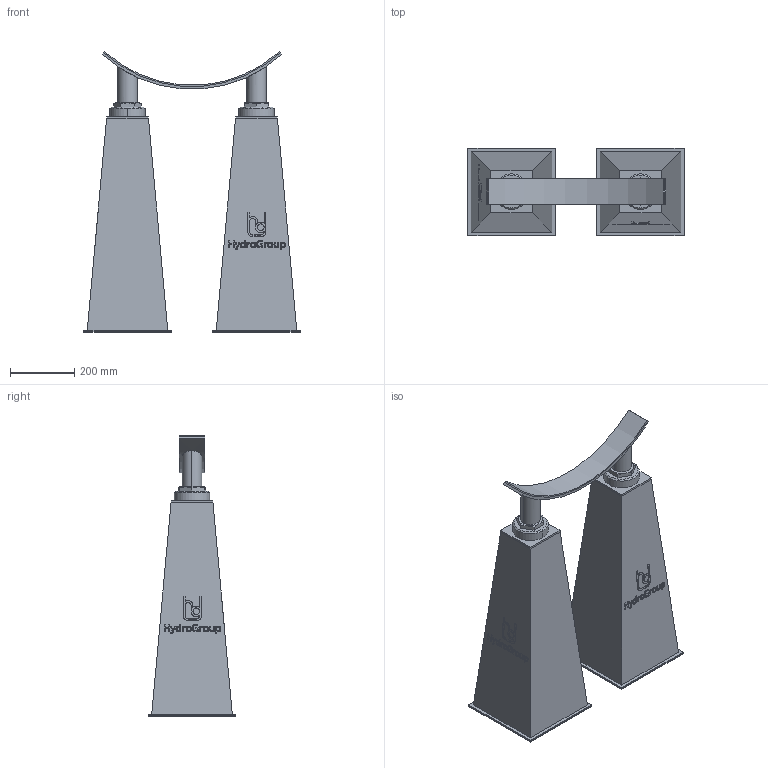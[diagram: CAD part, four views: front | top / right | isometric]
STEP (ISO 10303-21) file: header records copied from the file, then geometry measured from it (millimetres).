
FILE_DESCRIPTION(('STEP AP214'),'1');
FILE_NAME('RSRFE-I-DUO_DN800.stp','2018-06-27T13:42:58',(' '),(' '),'Spatial InterOp 3D',' ',' ');
FILE_SCHEMA(('automotive_design'));
Length unit declared in the file: millimetre
Products named in the file (10): 1; 2; 3; 4; 5; 6; 7; 8; 9; 10
Bounding box: 670 x 270 x 871.03 mm (x, y, z)
Volume: 53196272.2 mm3; surface area: 1927996 mm2
Topology: 10 solids, 10 shells, 410 faces, 1022 edges, 672 vertices
Faces by surface type: plane 272, cylinder 62, extrusion 48, cone 28
Entity records: 16905 total; most frequent: CARTESIAN_POINT 3722, ORIENTED_EDGE 2044, DIRECTION 1838, EDGE_CURVE 1022, VECTOR 798, LINE 750, VERTEX_POINT 672, AXIS2_PLACEMENT_3D 520
